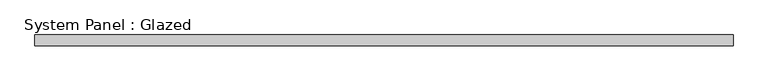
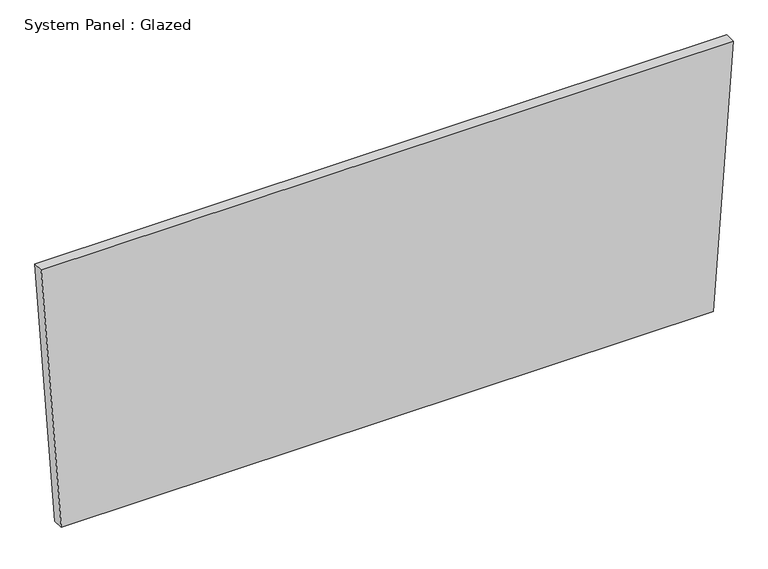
"""IFC4 building model written with IfcOpenShell, lengths in millimetres: plate geometry, System Panel : Glazed."""

from ifc_helpers import new_model, si_unit, frame, origin, place, context, project, spatial, polyline, outline, extrude, source, transform, mapped, element, save


def system_panel_glazed_000a9f1f(model_context):
    return source(origin(), model_context, "Body", "SweptSolid", [
        extrude(outline(polyline([(0.0, -774.941672), (0.0003835, 774.9416996), (664.077271, 822.7090705), (664.077271, -822.7090705), (0.0, -774.941672)])), frame((0.0, 19.05, 0.0), z_axis=(0.0, 1.0, 0.0), x_axis=(0.0, 0.0, 1.0)), (0.0, 0.0, 1.0), 25.4),
    ])


if __name__ == "__main__":
    model = new_model("IFC4")
    model_context = context("Model", 3, world=origin())
    ifc_project = project(units=[si_unit("LENGTHUNIT", "METRE", prefix="MILLI")], contexts=[model_context])
    site = spatial("IfcSite", under=ifc_project)
    building = spatial("IfcBuilding", under=site)
    placement = place(None, origin())
    system_panel_glazed_shape = system_panel_glazed_000a9f1f(model_context)
    element("IfcPlate", 1, ObjectType="System Panel : Glazed", at=placement, inside=building, context=model_context, shape_type="MappedRepresentation", body=[
        mapped(system_panel_glazed_shape, transform((0.0, 0.0, 0.0), x_axis=(1.0, 0.0, 0.0), y_axis=(0.0, 1.0, 0.0), z_axis=(0.0, 0.0, 1.0))),
    ])
    save(model, "model.ifc")
